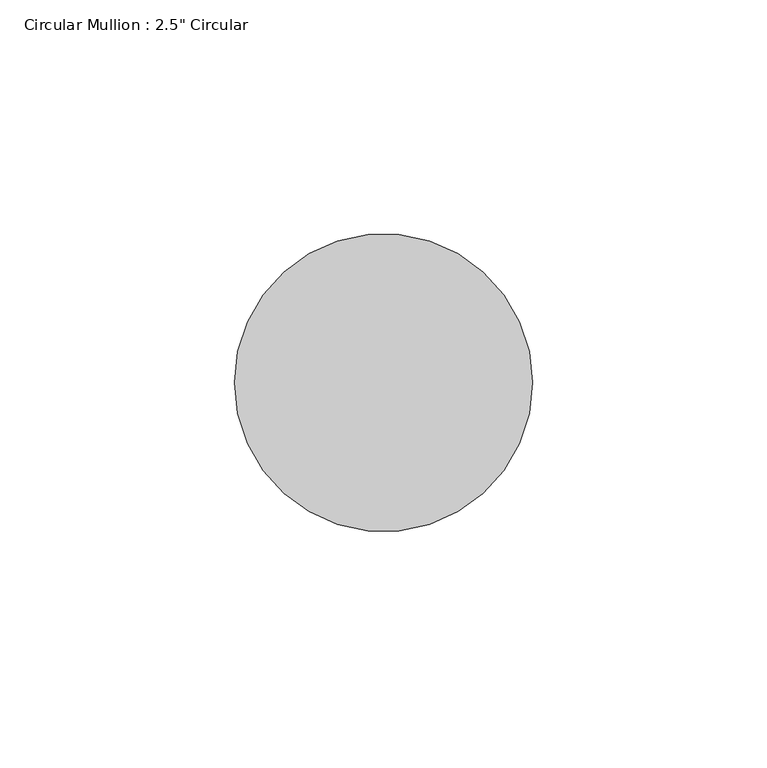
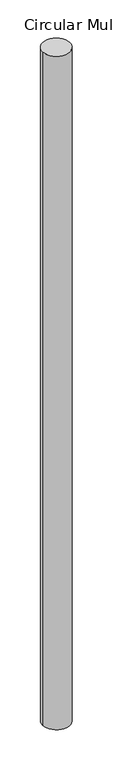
"""IFC4 building model written with IfcOpenShell, lengths in millimetres: member geometry."""

from ifc_helpers import new_model, si_unit, point, frame, origin, origin_2d, place, context, project, spatial, circle_curve, trimmed, segment, composite_curve, outline, extrude, source, transform, mapped, element, save


def member_709fdbf6(model_context):
    return source(origin(), model_context, "Body", "SweptSolid", [
        extrude(outline(composite_curve([segment(trimmed(circle_curve(origin_2d(), 31.75), [point((31.75, 0.0))], [point((-31.75, 0.0))], False, "CARTESIAN"), True, "CONTINUOUS"), segment(trimmed(circle_curve(origin_2d(), 31.75), [point((-31.75, 0.0))], [point((31.75, 0.0))], False, "CARTESIAN"), True, "CONTINUOUS")], self_intersect=False)), frame((0.0, 0.0, -1648.3467593), z_axis=(0.0, 0.0, 1.0), x_axis=(1.0, 0.0, 0.0)), (0.0, 0.0, 1.0), 1648.3467593),
    ])


if __name__ == "__main__":
    model = new_model("IFC4")
    model_context = context("Model", 3, world=origin())
    ifc_project = project(units=[si_unit("LENGTHUNIT", "METRE", prefix="MILLI")], contexts=[model_context])
    site = spatial("IfcSite", under=ifc_project)
    building = spatial("IfcBuilding", under=site)
    placement = place(None, origin())
    member_shape = member_709fdbf6(model_context)
    element("IfcMember", 1, ObjectType="Circular Mullion : 2.5\" Circular", at=placement, inside=building, context=model_context, shape_type="MappedRepresentation", body=[
        mapped(member_shape, transform((0.0, 0.0, 0.0), x_axis=(1.0, 0.0, 0.0), y_axis=(0.0, 1.0, 0.0), z_axis=(0.0, 0.0, 1.0))),
    ])
    save(model, "model.ifc")
